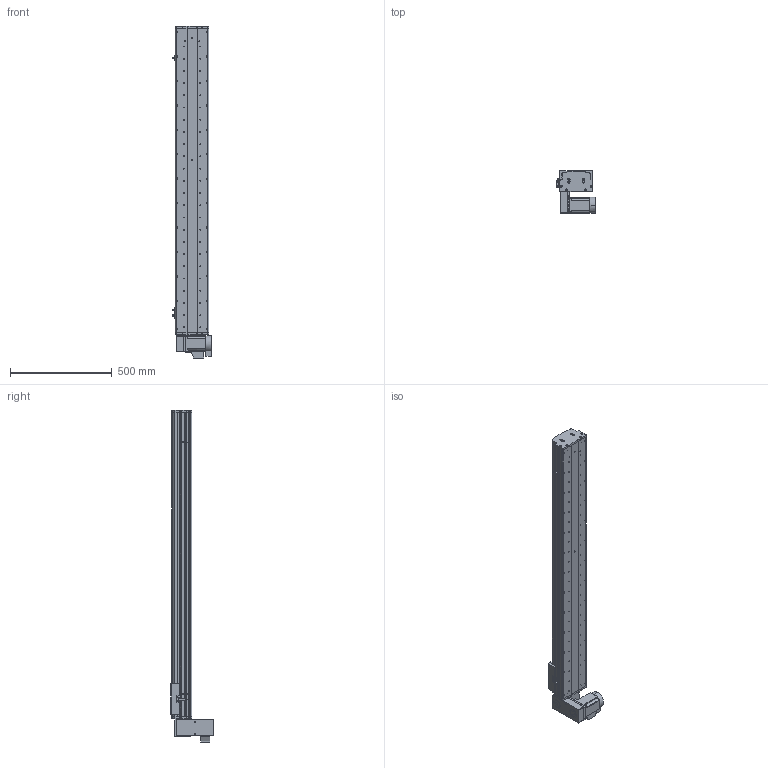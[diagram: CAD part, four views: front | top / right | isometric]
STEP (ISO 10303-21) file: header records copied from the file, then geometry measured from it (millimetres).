
FILE_DESCRIPTION (( 'STEP AP214' ), '1' );
FILE_NAME ('KSD165B-S1250-MLD-CM.STEP', '2017-10-16T07:23:26', ( '微软用户' ), ( '微软中国' ), 'SwSTEP 2.0', 'SolidWorks 2014', '' );
FILE_SCHEMA (( 'AUTOMOTIVE_DESIGN' ));
Length unit declared in the file: millimetre
Products named in the file (16): 拸秶雄ん750W侜督萇儂; U倰嫖萇假蚾璃; U倰嫖萇EEㄜSX672; 覜茼え68遵圉猾敕; KSD165模组同步带-防撞垫1; KSD165耀郪-ヶ傷啣1-肮祭湍; KSD165模组-后端板1-同步带; KSD165模组-同步带滑动座-最新版; KSD165B-S1250-MLD-CM; 130宽模组马达安装板连板上下折丝杆同步带; 130宽模组保护罩上下左右折-同步带; HTPA26S5M250-A-H8 750W萇儂蚚; HTPA26S5M250-A-H8 400W萇儂蚚 ; 165宽马达安装板同步带左-改; KSD165模组-同步带防尘盖1-1250行程; KSD165模组同步带底板-1250行程
Assembly tree (19 placements, depth 2):
  KSD165B-S1250-MLD-CM
    KSD165模组-同步带滑动座-最新版
    KSD165模组-后端板1-同步带
    KSD165耀郪-ヶ傷啣1-肮祭湍
    KSD165模组同步带-防撞垫1
    覜茼え68遵圉猾敕
    U倰嫖萇EEㄜSX672  x3
    U倰嫖萇假蚾璃  x3
    拸秶雄ん750W侜督萇儂
    KSD165模组同步带底板-1250行程
    KSD165模组-同步带防尘盖1-1250行程
    165宽马达安装板同步带左-改
    HTPA26S5M250-A-H8 400W萇儂蚚 
    HTPA26S5M250-A-H8 750W萇儂蚚
    130宽模组保护罩上下左右折-同步带
    130宽模组马达安装板连板上下折丝杆同步带
Bounding box: 191.2 x 210 x 1631 mm (x, y, z)
Volume: 9042223.1 mm3; surface area: 2106197.9 mm2
Topology: 20 solids, 21 shells, 2006 faces, 5676 edges, 3708 vertices
Faces by surface type: cylinder 1303, plane 591, cone 112
Entity records: 65616 total; most frequent: CARTESIAN_POINT 13466, DIRECTION 10740, ORIENTED_EDGE 10012, EDGE_CURVE 5006, AXIS2_PLACEMENT_3D 4220, VERTEX_POINT 3300, CIRCLE 2412, VECTOR 2300
